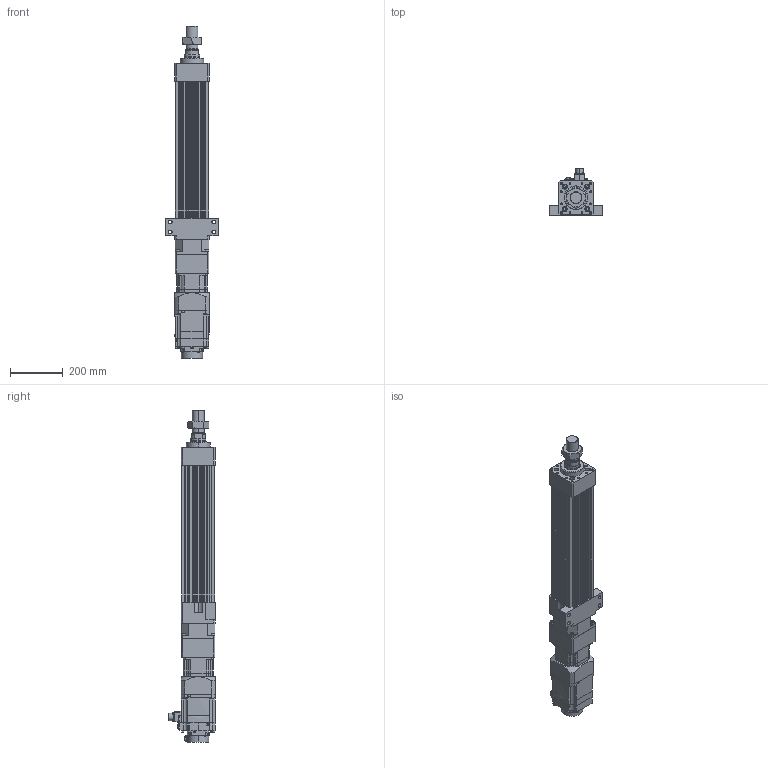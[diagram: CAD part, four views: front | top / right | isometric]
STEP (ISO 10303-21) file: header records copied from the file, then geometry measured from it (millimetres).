
FILE_DESCRIPTION (( 'STEP AP203' ), '1' );
FILE_NAME ('HES130NS(FS)(HS)-S300-W015G00-M-FFC.STEP', '2026-06-10T06:34:08', ( 'tms' ), ( '' ), 'SwSTEP 2.0', 'SolidWorks 2013', '' );
FILE_SCHEMA (( 'CONFIG_CONTROL_DESIGN' ));
Length unit declared in the file: millimetre
Products named in the file (8): HES130NS(FS)(HS)-S300-W015G00-M-FFC; HES130-S-G120; HES130-FFC-300; HES130-M-ROD-300; HG-SR152B; AB1151; M45X1.5P; AB1152
Assembly tree (7 placements, depth 2):
  HES130NS(FS)(HS)-S300-W015G00-M-FFC
    HES130-FFC-300
    HES130-M-ROD-300
    M45X1.5P
    HES130-S-G120
    AB1151
    AB1152
    HG-SR152B
Bounding box: 200 x 177.49 x 1262 mm (x, y, z)
Volume: 10074634.2 mm3; surface area: 1258008.7 mm2
Topology: 5 solids, 12 shells, 1284 faces, 3254 edges, 2103 vertices
Faces by surface type: cylinder 588, plane 584, cone 98, bspline 10, torus 4
Entity records: 40475 total; most frequent: CARTESIAN_POINT 7740, DIRECTION 7007, ORIENTED_EDGE 6432, EDGE_CURVE 3226, AXIS2_PLACEMENT_3D 2591, VERTEX_POINT 2103, VECTOR 1825, LINE 1825
